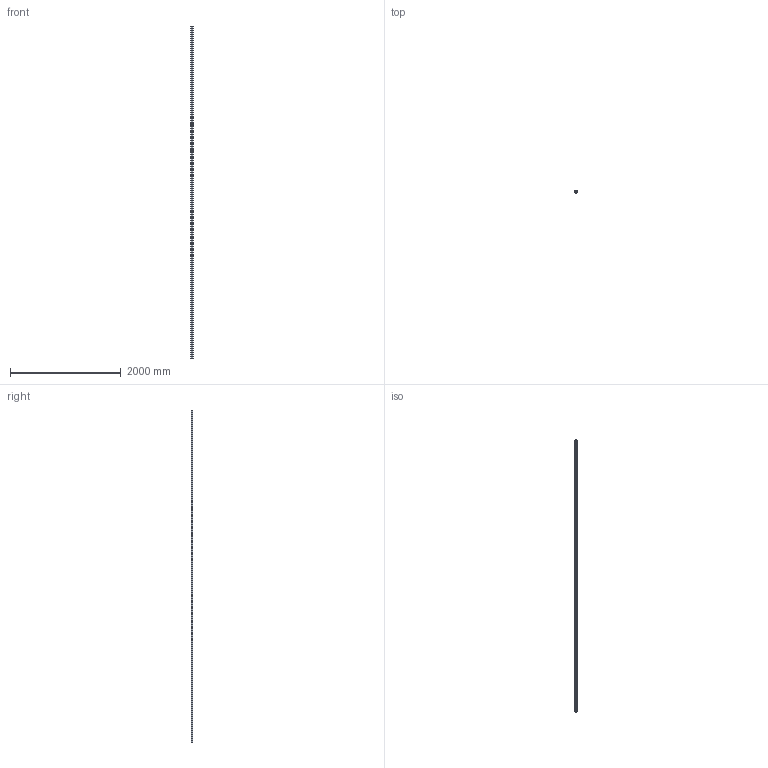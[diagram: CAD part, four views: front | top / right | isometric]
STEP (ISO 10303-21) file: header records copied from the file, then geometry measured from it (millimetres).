
FILE_DESCRIPTION(/* description */ ('Profilrohr Nr.1 - 6m Unverzinkt'),/* implementation_level */ '2;1');
FILE_NAME(/* name */ 'D:\Public\STP\011337011-TP.stp',/* time_stamp */ '2020-05-13T11:46:30+02:00',/* author */ ('O. Loukota'),/* organization */ (''),/* preprocessor_version */ 'ST-DEVELOPER v17.2',/* originating_system */ 'Autodesk Inventor 2019',/* authorisation */ '');
FILE_SCHEMA (('AUTOMOTIVE_DESIGN { 1 0 10303 214 3 1 1 }'));
Length unit declared in the file: millimetre
Products named in the file (1): 011337011
Bounding box: 39.5 x 34.5 x 6000 mm (x, y, z)
Volume: 1870816.7 mm3; surface area: 1394223.3 mm2
Topology: 1 solids, 1 shells, 70 faces, 180 edges, 120 vertices
Faces by surface type: plane 58, cylinder 12
Entity records: 2149 total; most frequent: CARTESIAN_POINT 371, ORIENTED_EDGE 360, DIRECTION 346, EDGE_CURVE 180, LINE 156, VECTOR 156, VERTEX_POINT 120, AXIS2_PLACEMENT_3D 95
